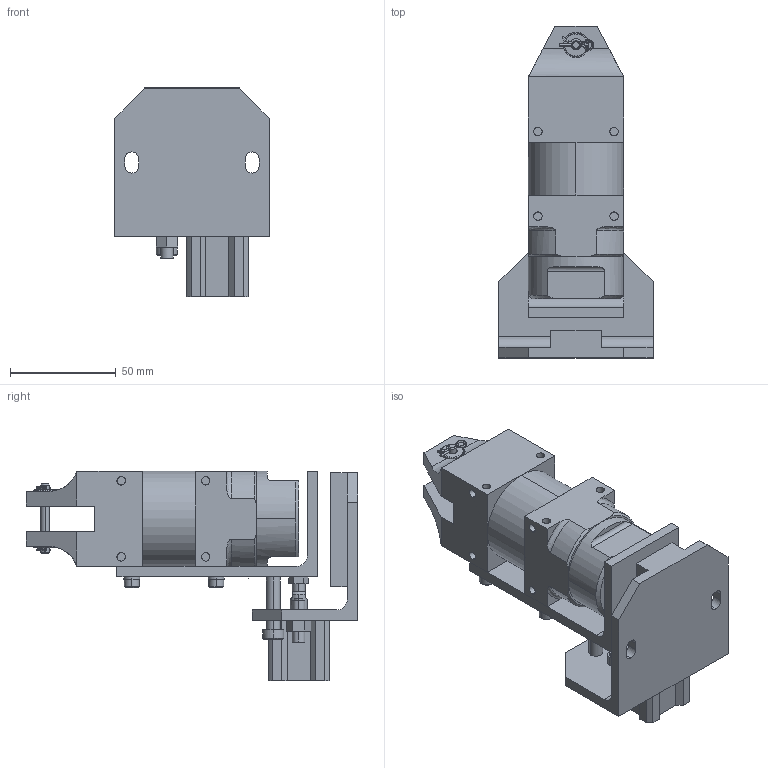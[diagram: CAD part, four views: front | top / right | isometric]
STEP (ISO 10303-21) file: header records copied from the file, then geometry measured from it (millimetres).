
FILE_DESCRIPTION (( 'STEP AP214' ), '1' );
FILE_NAME ('GTNB20LW10TM.STEP', '2019-11-29T09:02:52', ( '微软用户' ), ( '微软中国' ), 'SwSTEP 2.0', 'SolidWorks 2016', '' );
FILE_SCHEMA (( 'AUTOMOTIVE_DESIGN' ));
Length unit declared in the file: millimetre
Products named in the file (1): GTNB20LW10TM
Bounding box: 73 x 157 x 99.1 mm (x, y, z)
Surface area: 71621.7 mm2 (no closed solid volume)
Topology: 0 solids, 24 shells, 509 faces, 1313 edges, 888 vertices
Faces by surface type: plane 279, cylinder 151, cone 50, bspline 29
Entity records: 22415 total; most frequent: CARTESIAN_POINT 10563, ORIENTED_EDGE 2567, DIRECTION 2117, EDGE_CURVE 1309, VERTEX_POINT 888, AXIS2_PLACEMENT_3D 714, LINE 689, VECTOR 689
